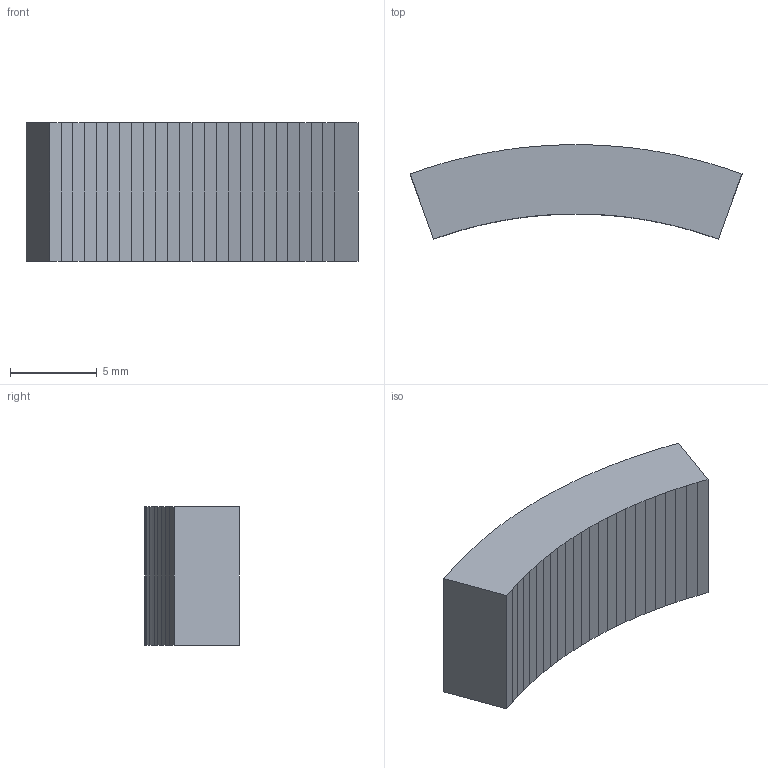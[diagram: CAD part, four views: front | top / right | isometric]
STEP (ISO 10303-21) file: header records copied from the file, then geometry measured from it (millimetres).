
FILE_DESCRIPTION(('Open CASCADE Model'),'2;1');
FILE_NAME('Open CASCADE Shape Model','2026-10-04T01:02:28',('Author'),( 'Open CASCADE'),'Open CASCADE STEP processor 8.0','Open CASCADE 8.0' ,'Unknown');
FILE_SCHEMA(('AUTOMOTIVE_DESIGN { 1 0 10303 214 1 1 1 1 }'));
Length unit declared in the file: millimetre
Products named in the file (1): Open CASCADE STEP translator 8.0 139
Bounding box: 19.15 x 5.45 x 8 mm (x, y, z)
Volume: 580.8 mm3; surface area: 499.6 mm2
Topology: 1 solids, 1 shells, 52 faces, 150 edges, 100 vertices
Faces by surface type: plane 52
Entity records: 3634 total; most frequent: CARTESIAN_POINT 603, DIRECTION 556, LINE 450, VECTOR 450, ORIENTED_EDGE 300, PCURVE 300, DEFINITIONAL_REPRESENTATION 300, EDGE_CURVE 150
